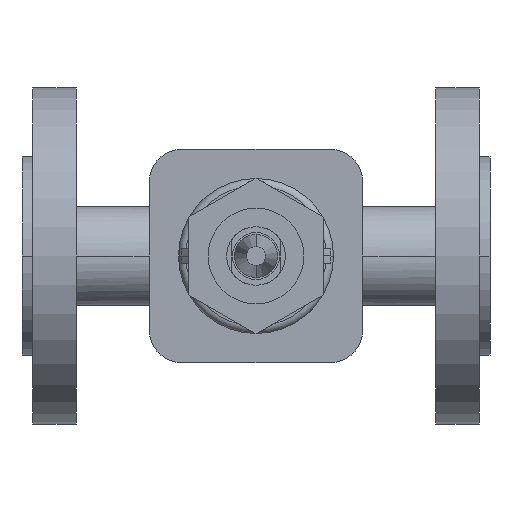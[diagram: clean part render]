
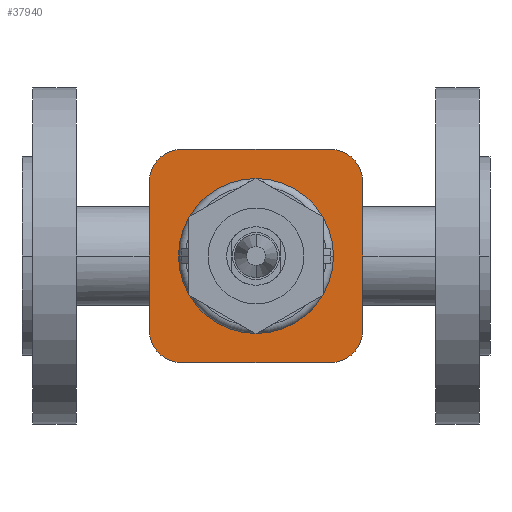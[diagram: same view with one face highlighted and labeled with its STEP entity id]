
A CAD part, front view. The second image highlights one B-rep face of the part: STEP entity #37940.
In plain terms, the highlighted planar face has unit normal (0, -1, 0).
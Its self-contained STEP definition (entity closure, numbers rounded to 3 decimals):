
#13120=CARTESIAN_POINT('',(53.5,-70.,0.));
#13130=VERTEX_POINT('',#13120);
#13220=CARTESIAN_POINT('',(106.5,-70.,0.));
#13230=VERTEX_POINT('',#13220);
#13260=CARTESIAN_POINT('',(80.,-70.,0.));
#13270=DIRECTION('',(0.,-1.,0.));
#13280=DIRECTION('',(-1.,0.,0.));
#13290=AXIS2_PLACEMENT_3D('',#13260,#13270,#13280);
#13300=CIRCLE('',#13290,26.5);
#13310=EDGE_CURVE('',#13130,#13230,#13300,.T.);
#33100=CARTESIAN_POINT('',(54.544,-70.,36.456));
#33110=VERTEX_POINT('',#33100);
#33160=CARTESIAN_POINT('',(54.544,-70.,25.456));
#33170=DIRECTION('',(0.,-1.,0.));
#33180=DIRECTION('',(-1.,0.,0.));
#33190=AXIS2_PLACEMENT_3D('',#33160,#33170,#33180);
#33200=CIRCLE('',#33190,11.);
#33210=CARTESIAN_POINT('',(43.544,-70.,25.456));
#33220=VERTEX_POINT('',#33210);
#33230=EDGE_CURVE('',#33110,#33220,#33200,.T.);
#37240=CARTESIAN_POINT('',(42.75,-70.,0.));
#37250=DIRECTION('',(0.,-1.,0.));
#37260=DIRECTION('',(-1.,0.,0.));
#37270=AXIS2_PLACEMENT_3D('',#37240,#37250,#37260);
#37280=PLANE('',#37270);
#37290=ORIENTED_EDGE('',*,*,#33230,.T.);
#37300=CARTESIAN_POINT('',(48.647,-70.,36.456));
#37310=DIRECTION('',(-1.,0.,0.));
#37320=VECTOR('',#37310,1.);
#37330=LINE('',#37300,#37320);
#37340=CARTESIAN_POINT('',(105.456,-70.,36.456));
#37350=VERTEX_POINT('',#37340);
#37360=EDGE_CURVE('',#37350,#33110,#37330,.T.);
#37370=ORIENTED_EDGE('',*,*,#37360,.T.);
#37380=CARTESIAN_POINT('',(105.456,-70.,25.456));
#37390=DIRECTION('',(0.,-1.,0.));
#37400=DIRECTION('',(0.,0.,1.));
#37410=AXIS2_PLACEMENT_3D('',#37380,#37390,#37400);
#37420=CIRCLE('',#37410,11.);
#37430=CARTESIAN_POINT('',(116.456,-70.,25.456));
#37440=VERTEX_POINT('',#37430);
#37450=EDGE_CURVE('',#37440,#37350,#37420,.T.);
#37460=ORIENTED_EDGE('',*,*,#37450,.T.);
#37470=CARTESIAN_POINT('',(116.456,-70.,12.728));
#37480=DIRECTION('',(0.,0.,1.));
#37490=VECTOR('',#37480,1.);
#37500=LINE('',#37470,#37490);
#37510=CARTESIAN_POINT('',(116.456,-70.,-25.456));
#37520=VERTEX_POINT('',#37510);
#37530=EDGE_CURVE('',#37520,#37440,#37500,.T.);
#37540=ORIENTED_EDGE('',*,*,#37530,.T.);
#37550=CARTESIAN_POINT('',(105.456,-70.,-25.456));
#37560=DIRECTION('',(0.,-1.,0.));
#37570=DIRECTION('',(1.,0.,0.));
#37580=AXIS2_PLACEMENT_3D('',#37550,#37560,#37570);
#37590=CIRCLE('',#37580,11.);
#37600=CARTESIAN_POINT('',(105.456,-70.,-36.456));
#37610=VERTEX_POINT('',#37600);
#37620=EDGE_CURVE('',#37610,#37520,#37590,.T.);
#37630=ORIENTED_EDGE('',*,*,#37620,.T.);
#37640=CARTESIAN_POINT('',(74.103,-70.,-36.456));
#37650=DIRECTION('',(1.,0.,0.));
#37660=VECTOR('',#37650,1.);
#37670=LINE('',#37640,#37660);
#37680=CARTESIAN_POINT('',(54.544,-70.,-36.456));
#37690=VERTEX_POINT('',#37680);
#37700=EDGE_CURVE('',#37690,#37610,#37670,.T.);
#37710=ORIENTED_EDGE('',*,*,#37700,.T.);
#37720=CARTESIAN_POINT('',(54.544,-70.,-25.456));
#37730=DIRECTION('',(0.,-1.,0.));
#37740=DIRECTION('',(0.,0.,-1.));
#37750=AXIS2_PLACEMENT_3D('',#37720,#37730,#37740);
#37760=CIRCLE('',#37750,11.);
#37770=CARTESIAN_POINT('',(43.544,-70.,-25.456));
#37780=VERTEX_POINT('',#37770);
#37790=EDGE_CURVE('',#37780,#37690,#37760,.T.);
#37800=ORIENTED_EDGE('',*,*,#37790,.T.);
#37810=CARTESIAN_POINT('',(43.544,-70.,-12.728));
#37820=DIRECTION('',(0.,0.,-1.));
#37830=VECTOR('',#37820,1.);
#37840=LINE('',#37810,#37830);
#37850=EDGE_CURVE('',#33220,#37780,#37840,.T.);
#37860=ORIENTED_EDGE('',*,*,#37850,.T.);
#37870=EDGE_LOOP('',(#37860,#37800,#37710,#37630,#37540,#37460,#37370,
#37290));
#37880=FACE_OUTER_BOUND('',#37870,.T.);
#37890=EDGE_CURVE('',#13230,#13130,#13300,.T.);
#37900=ORIENTED_EDGE('',*,*,#37890,.F.);
#37910=ORIENTED_EDGE('',*,*,#13310,.F.);
#37920=EDGE_LOOP('',(#37910,#37900));
#37930=FACE_BOUND('',#37920,.T.);
#37940=ADVANCED_FACE('',(#37880,#37930),#37280,.T.);
